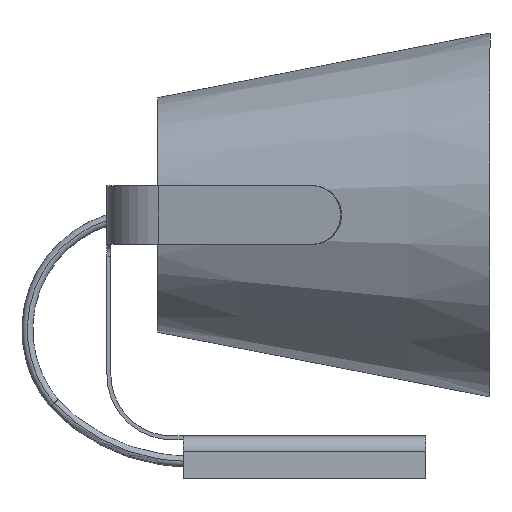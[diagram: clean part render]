
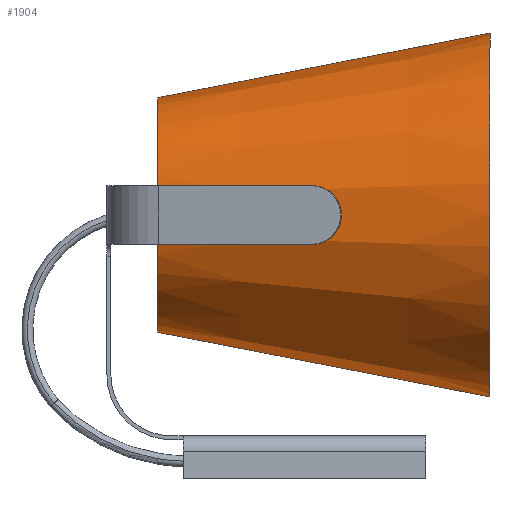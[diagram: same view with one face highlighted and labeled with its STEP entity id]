
A CAD part, left-side view. The second image highlights one B-rep face of the part: STEP entity #1904.
In plain terms, the highlighted conical face has half-angle 11 degrees and reference radius 63.304 mm.
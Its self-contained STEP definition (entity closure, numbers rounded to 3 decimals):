
#22=CONICAL_SURFACE('',#2688,63.304,0.192);
#272=FACE_OUTER_BOUND('',#422,.T.);
#422=EDGE_LOOP('',(#1665,#1666,#1667,#1668));
#641=VERTEX_POINT('',#4954);
#642=VERTEX_POINT('',#4955);
#643=VERTEX_POINT('',#4957);
#644=VERTEX_POINT('',#4959);
#982=EDGE_CURVE('',#643,#641,#2127,.T.);
#984=EDGE_CURVE('',#642,#644,#2128,.T.);
#985=EDGE_CURVE('',#642,#641,#2456,.T.);
#986=EDGE_CURVE('',#643,#644,#2457,.T.);
#1665=ORIENTED_EDGE('',*,*,#985,.F.);
#1666=ORIENTED_EDGE('',*,*,#984,.T.);
#1667=ORIENTED_EDGE('',*,*,#986,.F.);
#1668=ORIENTED_EDGE('',*,*,#982,.T.);
#1904=ADVANCED_FACE('',(#272),#22,.T.);
#2127=LINE('',#4958,#2343);
#2128=LINE('',#4961,#2344);
#2343=VECTOR('',#3360,304.8);
#2344=VECTOR('',#3363,304.8);
#2456=CIRCLE('',#2689,93.045);
#2457=CIRCLE('',#2690,60.);
#2688=AXIS2_PLACEMENT_3D('',#4962,#3364,#3365);
#2689=AXIS2_PLACEMENT_3D('',#4963,#3366,#3367);
#2690=AXIS2_PLACEMENT_3D('',#4964,#3368,#3369);
#3360=DIRECTION('',(0.,-0.982,-0.191));
#3363=DIRECTION('',(0.,0.982,-0.191));
#3364=DIRECTION('center_axis',(0.,-1.,0.));
#3365=DIRECTION('ref_axis',(-0.588,0.,0.809));
#3366=DIRECTION('center_axis',(0.,-1.,0.));
#3367=DIRECTION('ref_axis',(-0.588,0.,0.809));
#3368=DIRECTION('center_axis',(0.,1.,0.));
#3369=DIRECTION('ref_axis',(-0.588,0.,0.809));
#4954=CARTESIAN_POINT('',(0.,-95.,41.955));
#4955=CARTESIAN_POINT('',(0.,-95.,228.045));
#4957=CARTESIAN_POINT('',(0.,75.,75.));
#4958=CARTESIAN_POINT('',(0.,75.,75.));
#4959=CARTESIAN_POINT('',(0.,75.,195.));
#4961=CARTESIAN_POINT('',(0.,-95.,228.045));
#4962=CARTESIAN_POINT('Origin',(0.,58.,135.));
#4963=CARTESIAN_POINT('Origin',(0.,-95.,
135.));
#4964=CARTESIAN_POINT('Origin',(0.,75.,135.));
